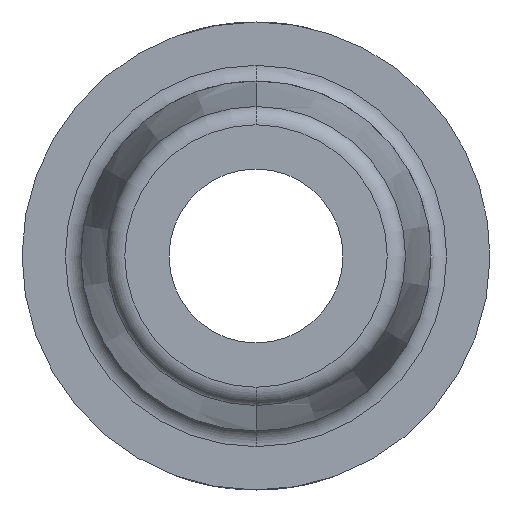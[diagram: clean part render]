
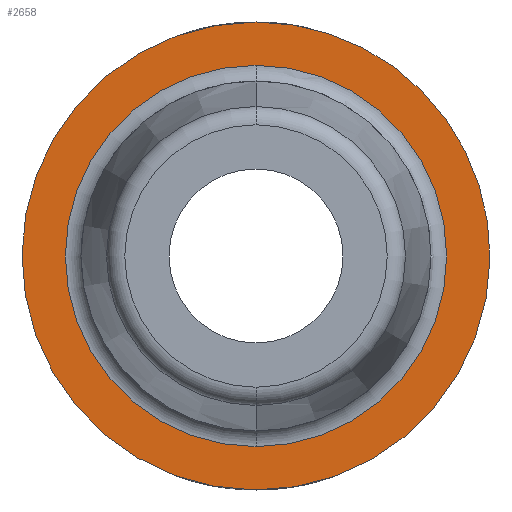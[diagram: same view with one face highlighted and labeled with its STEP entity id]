
A CAD part, left-side view. The second image highlights one B-rep face of the part: STEP entity #2658.
In plain terms, the highlighted planar face has unit normal (-1, 0, 0).
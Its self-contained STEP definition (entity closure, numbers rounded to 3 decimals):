
#55=PLANE('',#2933);
#138=FACE_BOUND('',#841,.T.);
#677=FACE_OUTER_BOUND('',#840,.T.);
#840=EDGE_LOOP('',(#2028,#2029));
#841=EDGE_LOOP('',(#2030,#2031));
#979=CIRCLE('',#2808,2.587);
#1026=CIRCLE('',#2870,3.175);
#1027=CIRCLE('',#2871,3.175);
#1076=CIRCLE('',#2934,2.587);
#1111=VERTEX_POINT('',#3763);
#1112=VERTEX_POINT('',#3764);
#1176=VERTEX_POINT('',#3931);
#1177=VERTEX_POINT('',#3933);
#1390=EDGE_CURVE('',#1111,#1112,#979,.T.);
#1462=EDGE_CURVE('',#1177,#1176,#1026,.T.);
#1463=EDGE_CURVE('',#1176,#1177,#1027,.T.);
#1598=EDGE_CURVE('',#1112,#1111,#1076,.T.);
#2028=ORIENTED_EDGE('',*,*,#1462,.T.);
#2029=ORIENTED_EDGE('',*,*,#1463,.T.);
#2030=ORIENTED_EDGE('',*,*,#1598,.T.);
#2031=ORIENTED_EDGE('',*,*,#1390,.T.);
#2658=ADVANCED_FACE('',(#677,#138),#55,.F.);
#2808=AXIS2_PLACEMENT_3D('',#3765,#3064,#3065);
#2870=AXIS2_PLACEMENT_3D('',#3934,#3210,#3211);
#2871=AXIS2_PLACEMENT_3D('',#3935,#3212,#3213);
#2933=AXIS2_PLACEMENT_3D('',#4815,#3378,#3379);
#2934=AXIS2_PLACEMENT_3D('',#4816,#3380,#3381);
#3064=DIRECTION('center_axis',(1.,0.,0.));
#3065=DIRECTION('ref_axis',(0.,0.,
1.));
#3210=DIRECTION('center_axis',(-1.,0.,0.));
#3211=DIRECTION('ref_axis',(0.,0.,1.));
#3212=DIRECTION('center_axis',(-1.,0.,0.));
#3213=DIRECTION('ref_axis',(0.,0.,1.));
#3378=DIRECTION('center_axis',(1.,0.,0.));
#3379=DIRECTION('ref_axis',(0.,0.,-1.));
#3380=DIRECTION('center_axis',(1.,0.,0.));
#3381=DIRECTION('ref_axis',(0.,0.,-1.));
#3763=CARTESIAN_POINT('',(-12.25,0.,2.587));
#3764=CARTESIAN_POINT('',(-12.25,0.,-2.587));
#3765=CARTESIAN_POINT('Origin',(-12.25,0.,0.));
#3931=CARTESIAN_POINT('',(-12.25,-3.175,-0.03));
#3933=CARTESIAN_POINT('',(-12.25,0.,3.175));
#3934=CARTESIAN_POINT('Origin',(-12.25,0.,0.));
#3935=CARTESIAN_POINT('Origin',(-12.25,0.,0.));
#4815=CARTESIAN_POINT('Origin',(-12.25,-3.213,0.));
#4816=CARTESIAN_POINT('Origin',(-12.25,0.,0.));
